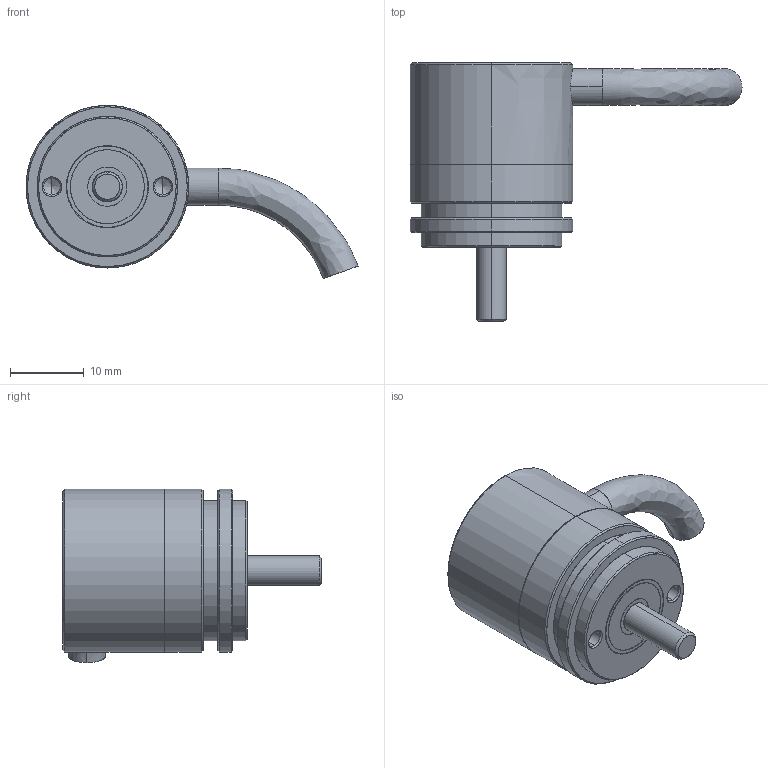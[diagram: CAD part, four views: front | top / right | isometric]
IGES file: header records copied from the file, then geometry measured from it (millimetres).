
Start section: SolidWorks IGES FILE using analytic representation for surfaces
Global section: file name: E:\MOJIDOK2006\projekti2006\3D-RE-RM-izdelki\RE22IP53radial-3D.IGS; native system: SolidWorks 99 by SolidWorks Corporation; preprocessor: Version 3.0; author: cerar; date: 1060905.145851; units: millimetre
Bounding box: 44.89 x 35 x 23.44 mm (x, y, z)
Surface area: 3211.1 mm2 (no closed solid volume)
Topology: 0 solids, 0 shells, 65 faces, 1131 edges, 1126 vertices
Faces by surface type: revolution 50, bspline 15
